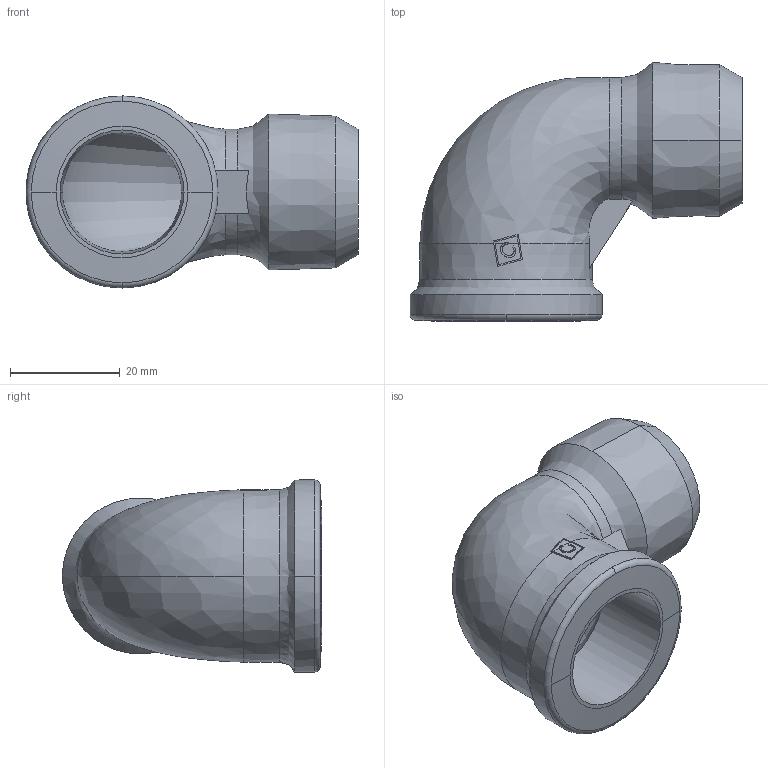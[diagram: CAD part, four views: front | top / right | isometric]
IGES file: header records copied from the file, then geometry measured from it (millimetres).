
Global section: file name: No Iges File Name specified; native system: AutoDesk Inventor R12.0; preprocessor: AutoDesk Inventor Iges Exporter R12.0; date: 20090915.165344; units: millimetre
Bounding box: 60.5 x 47.21 x 35 mm (x, y, z)
Volume: 19479.2 mm3; surface area: 11535.4 mm2
Topology: 1 solids, 1 shells, 51 faces, 178 edges, 128 vertices
Faces by surface type: bspline 25, plane 14, cone 6, torus 2, cylinder 2, revolution 2
